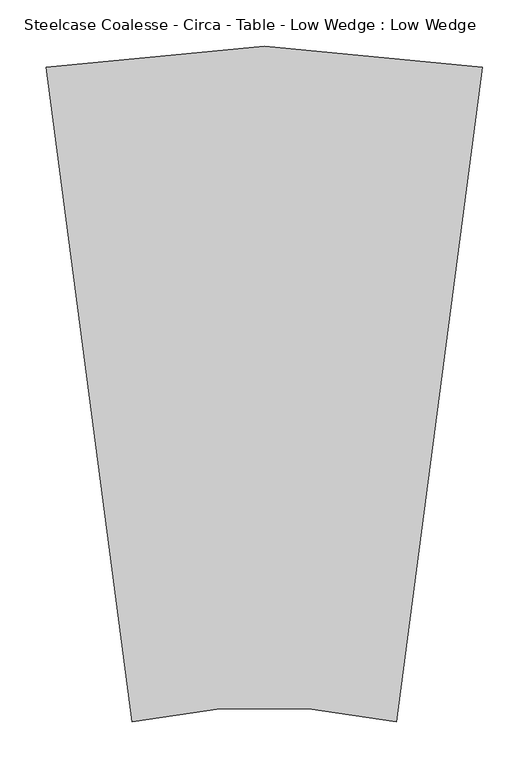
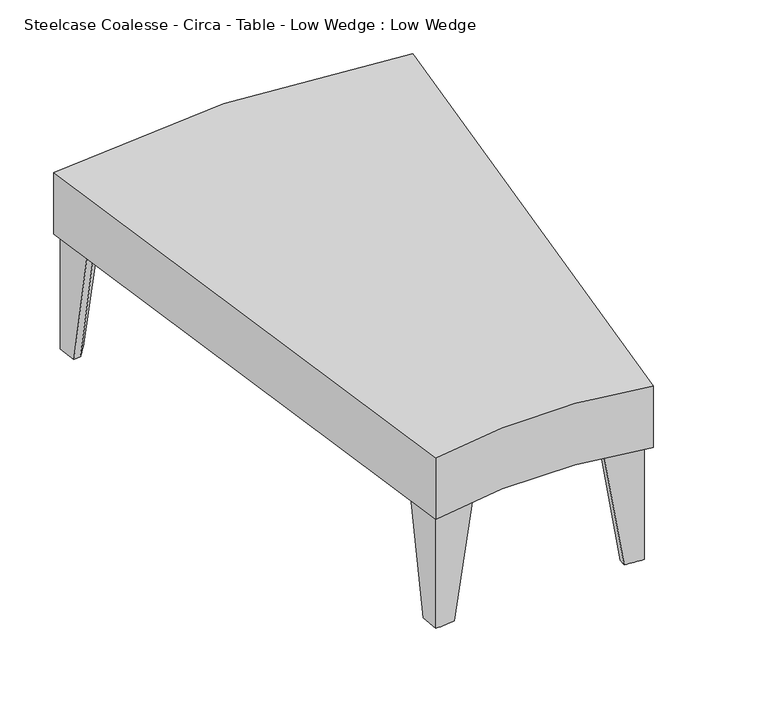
"""IFC4 building model written with IfcOpenShell, lengths in millimetres: furniture geometry, Steelcase Coalesse - Circa - Table - Low Wedge : Low Wedge."""

from ifc_helpers import new_model, si_unit, point, frame, frame_2d, origin, place, context, project, spatial, polyline, circle_curve, trimmed, segment, composite_curve, outline, extrude, source, transform, mapped, element, save
from ifc_brep_helpers import plane_surface, spline_surface, advanced_brep


def steelcase_coalesse_circa_table_low_wedge_low_wedge_ee67b399(model_context):
    return source(origin(), model_context, "Body", "SolidModel", [
        advanced_brep(
        [(-292.4797414, -479.1478993, 0.0), (-317.7815424, -476.9342785, 0.0), (-316.9513185, -467.444776, 0.0), (-299.7541546, -453.0143738, 0.0), (-290.2659856, -453.844554, 0.0), (-292.4790588, -479.1467675, 159.258), (-288.0517667, -428.5425865, 159.258), (-297.5405212, -427.7124281, 159.258), (-342.2536859, -465.2309598, 159.258), (-343.0838127, -474.7193523, 159.258)],
        [
            (0, 1),
            (1, 2),
            (2, 3),
            (3, 4),
            (4, 0),
            (5, 6),
            (6, 7),
            (7, 8),
            (8, 9),
            (9, 5),
            (9, 1),
            (0, 5),
            (8, 2),
            (7, 3),
            (6, 4),
        ],
        [
            plane_surface(frame((-303.4465485, -466.0771763, 0.0), z_axis=(0.0, 0.0, -1.0000000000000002), x_axis=(-0.996194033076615, 0.08716334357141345, 0.0))),
            plane_surface(frame((-312.6817691, -455.0704188, 159.258), z_axis=(0.0, 0.0, 1.0000000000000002), x_axis=(-0.996194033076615, 0.08716334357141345, 0.0))),
            spline_surface(1, 1, [[(-292.4790588, -479.1467675, 159.258), (-292.4797414, -479.1478993, 0.0)], [(-343.0838127, -474.7193523, 159.258), (-317.7815424, -476.9342785, 0.0)]], [2, 2], [2, 2], [0.0, 1.0], [0.0, 1.0]),
            plane_surface(frame((-342.6687493, -469.975156, 159.258), z_axis=(-0.9837622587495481, 0.0860680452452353, -0.1574932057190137), x_axis=(0.08715574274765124, 0.9961946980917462, 0.0))),
            spline_surface(1, 1, [[(-342.2536859, -465.2309598, 159.258), (-316.9513185, -467.444776, 0.0)], [(-297.5405212, -427.7124281, 159.258), (-299.7541546, -453.0143738, 0.0)]], [2, 2], [2, 2], [0.0, 1.0], [0.0, 1.0]),
            spline_surface(1, 1, [[(-297.5405212, -427.7124281, 159.258), (-299.7541546, -453.0143738, 0.0)], [(-288.0517667, -428.5425865, 159.258), (-290.2659856, -453.844554, 0.0)]], [2, 2], [2, 2], [0.0, 1.0], [0.0, 1.0]),
            plane_surface(frame((-290.2654128, -453.844677, 159.258), z_axis=(0.9961946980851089, -0.08715574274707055, -3.6504280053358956e-06), x_axis=(-0.08715574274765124, -0.9961946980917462, 0.0))),
        ],
        [
            (0, [[1, 2, 3, 4, 5]]),
            (1, [[6, 7, 8, 9, 10]]),
            (2, [[-10, 11, -1, 12]]),
            (3, [[-9, 13, -2, -11]]),
            (4, [[-8, 14, -3, -13]]),
            (5, [[-7, 15, -4, -14]]),
            (6, [[-6, -12, -5, -15]]),
        ],
    ),
        advanced_brep(
        [(-216.1530882, 211.9285243, 0.0), (-219.0782647, 186.6987195, 0.0), (-228.5398837, 187.795712, 0.0), (-242.4800538, 205.3925221, 0.0), (-241.3831095, 214.8537259, 0.0), (-216.1530882, 211.9285243, 159.258), (-266.6125596, 217.7788064, 159.258), (-267.7095018, 208.3176206, 159.258), (-231.4650539, 162.5659614, 159.258), (-222.003435, 161.4689689, 159.258)],
        [
            (0, 1),
            (1, 2),
            (2, 3),
            (3, 4),
            (4, 0),
            (5, 6),
            (6, 7),
            (7, 8),
            (8, 9),
            (9, 5),
            (9, 1),
            (0, 5),
            (8, 2),
            (7, 3),
            (6, 4),
        ],
        [
            plane_surface(frame((-229.52688, 201.3338408, 0.0), z_axis=(0.0, 0.0, -1.0000000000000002), x_axis=(0.9933458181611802, -0.11516981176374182, 0.0))),
            plane_surface(frame((-240.7887277, 192.4119763, 159.258), z_axis=(0.0, 0.0, 1.0000000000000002), x_axis=(0.9933458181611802, -0.11516981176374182, 0.0))),
            plane_surface(frame((-219.0782616, 186.6987466, 159.258), z_axis=(0.9933458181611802, -0.11516981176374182, 0.0), x_axis=(-0.11516981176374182, -0.9933458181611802, 0.0))),
            plane_surface(frame((-226.7342444, 162.0174652, 159.258), z_axis=(-0.11373253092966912, -0.9809491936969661, -0.15749155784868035), x_axis=(-0.9933458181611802, 0.11516981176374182, 0.0))),
            spline_surface(1, 1, [[(-231.4650539, 162.5659614, 159.258), (-228.5398837, 187.795712, 0.0)], [(-267.7095018, 208.3176206, 159.258), (-242.4800538, 205.3925221, 0.0)]], [2, 2], [2, 2], [0.0, 1.0], [0.0, 1.0]),
            plane_surface(frame((-267.1610307, 213.0482135, 159.258), z_axis=(-0.9809494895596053, 0.11373256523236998, -0.15748969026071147), x_axis=(0.11516981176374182, 0.9933458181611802, 0.0))),
            spline_surface(1, 1, [[(-266.6125596, 217.7788064, 159.258), (-241.3831095, 214.8537259, 0.0)], [(-216.1530882, 211.9285243, 159.258), (-216.1530882, 211.9285243, 0.0)]], [2, 2], [2, 2], [0.0, 1.0], [0.0, 1.0]),
        ],
        [
            (0, [[1, 2, 3, 4, 5]]),
            (1, [[6, 7, 8, 9, 10]]),
            (2, [[-10, 11, -1, 12]]),
            (3, [[-9, 13, -2, -11]]),
            (4, [[-8, 14, -3, -13]]),
            (5, [[-7, 15, -4, -14]]),
            (6, [[-6, -12, -5, -15]]),
        ],
    ),
        advanced_brep(
        [(-657.8775493, 211.9285243, 0.0), (-632.647528, 214.8537259, 0.0), (-631.5505836, 205.3925221, 0.0), (-645.4907538, 187.795712, 0.0), (-654.9523727, 186.6987195, 0.0), (-657.8775493, 211.9285243, 159.258), (-652.0272025, 161.4689689, 159.258), (-642.5655836, 162.5659614, 159.258), (-606.3211356, 208.3176206, 159.258), (-607.4180779, 217.7788064, 159.258)],
        [
            (0, 1),
            (1, 2),
            (2, 3),
            (3, 4),
            (4, 0),
            (5, 6),
            (6, 7),
            (7, 8),
            (8, 9),
            (9, 5),
            (9, 1),
            (0, 5),
            (8, 2),
            (7, 3),
            (6, 4),
        ],
        [
            plane_surface(frame((-644.5037575, 201.3338408, 0.0), z_axis=(0.0, 0.0, -1.0000000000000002), x_axis=(0.6209592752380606, 0.7838428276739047, 0.0))),
            plane_surface(frame((-633.2419098, 192.4119763, 159.258), z_axis=(0.0, 0.0, 1.0000000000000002), x_axis=(0.6209592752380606, 0.7838428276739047, 0.0))),
            spline_surface(1, 1, [[(-657.8775493, 211.9285243, 159.258), (-657.8775493, 211.9285243, 0.0)], [(-607.4180779, 217.7788064, 159.258), (-632.647528, 214.8537259, 0.0)]], [2, 2], [2, 2], [0.0, 1.0], [0.0, 1.0]),
            plane_surface(frame((-606.8696068, 213.0482135, 159.258), z_axis=(0.9809494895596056, 0.11373256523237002, -0.15748969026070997), x_axis=(0.11516981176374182, -0.9933458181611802, 0.0))),
            spline_surface(1, 1, [[(-606.3211356, 208.3176206, 159.258), (-631.5505836, 205.3925221, 0.0)], [(-642.5655836, 162.5659614, 159.258), (-645.4907538, 187.795712, 0.0)]], [2, 2], [2, 2], [0.0, 1.0], [0.0, 1.0]),
            plane_surface(frame((-647.296393, 162.0174652, 159.258), z_axis=(0.11373253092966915, -0.9809491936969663, -0.15749155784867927), x_axis=(-0.9933458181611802, -0.11516981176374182, 0.0))),
            plane_surface(frame((-654.9523759, 186.6987466, 159.258), z_axis=(-0.9933458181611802, -0.11516981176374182, 0.0), x_axis=(-0.11516981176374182, 0.9933458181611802, 0.0))),
        ],
        [
            (0, [[1, 2, 3, 4, 5]]),
            (1, [[6, 7, 8, 9, 10]]),
            (2, [[-10, 11, -1, 12]]),
            (3, [[-9, 13, -2, -11]]),
            (4, [[-8, 14, -3, -13]]),
            (5, [[-7, 15, -4, -14]]),
            (6, [[-6, -12, -5, -15]]),
        ],
    ),
        advanced_brep(
        [(-565.2751058, -479.1478993, 0.0), (-567.4888617, -453.844554, 0.0), (-558.0006927, -453.0143738, 0.0), (-540.8035288, -467.444776, 0.0), (-539.9733049, -476.9342785, 0.0), (-565.2757884, -479.1467675, 159.258), (-514.6710346, -474.7193523, 159.258), (-515.5011614, -465.2309598, 159.258), (-560.2143261, -427.7124281, 159.258), (-569.7030806, -428.5425865, 159.258)],
        [
            (0, 1),
            (1, 2),
            (2, 3),
            (3, 4),
            (4, 0),
            (5, 6),
            (6, 7),
            (7, 8),
            (8, 9),
            (9, 5),
            (9, 1),
            (0, 5),
            (8, 2),
            (7, 3),
            (6, 4),
        ],
        [
            plane_surface(frame((-554.3082988, -466.0771763, 0.0), z_axis=(0.0, 0.0, -1.0000000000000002), x_axis=(0.08715574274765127, -0.9961946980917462, 0.0))),
            plane_surface(frame((-545.0730782, -455.0704188, 159.258), z_axis=(0.0, 0.0, 1.0000000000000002), x_axis=(0.08715574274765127, -0.9961946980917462, 0.0))),
            plane_surface(frame((-567.4894345, -453.844677, 159.258), z_axis=(-0.9961946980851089, -0.08715574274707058, -3.650428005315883e-06), x_axis=(-0.08715574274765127, 0.9961946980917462, 0.0))),
            spline_surface(1, 1, [[(-569.7030806, -428.5425865, 159.258), (-567.4888617, -453.844554, 0.0)], [(-560.2143261, -427.7124281, 159.258), (-558.0006927, -453.0143738, 0.0)]], [2, 2], [2, 2], [0.0, 1.0], [0.0, 1.0]),
            spline_surface(1, 1, [[(-560.2143261, -427.7124281, 159.258), (-558.0006927, -453.0143738, 0.0)], [(-515.5011614, -465.2309598, 159.258), (-540.8035288, -467.444776, 0.0)]], [2, 2], [2, 2], [0.0, 1.0], [0.0, 1.0]),
            plane_surface(frame((-515.086098, -469.975156, 159.258), z_axis=(0.9837622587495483, 0.08606804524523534, -0.157493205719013), x_axis=(0.08715574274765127, -0.9961946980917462, 0.0))),
            spline_surface(1, 1, [[(-514.6710346, -474.7193523, 159.258), (-539.9733049, -476.9342785, 0.0)], [(-565.2757884, -479.1467675, 159.258), (-565.2751058, -479.1478993, 0.0)]], [2, 2], [2, 2], [0.0, 1.0], [0.0, 1.0]),
        ],
        [
            (0, [[1, 2, 3, 4, 5]]),
            (1, [[6, 7, 8, 9, 10]]),
            (2, [[-10, 11, -1, 12]]),
            (3, [[-9, 13, -2, -11]]),
            (4, [[-8, 14, -3, -13]]),
            (5, [[-7, 15, -4, -14]]),
            (6, [[-6, -12, -5, -15]]),
        ],
    ),
        extrude(outline(composite_curve([segment(trimmed(circle_curve(frame_2d((-428.9229635, -1121.0199718)), 647.9946116), [point((-286.6264165, -488.8422203))], [point((-571.2195104, -488.8422203))], True, "CARTESIAN"), True, "CONTINUOUS"), segment(polyline([(-571.2195104, -488.8422203), (-663.917922, 216.2403236)]), True, "CONTINUOUS"), segment(trimmed(circle_curve(frame_2d((-428.9226728, -1011.0737262)), 1249.6089564), [point((-663.917922, 216.2403236))], [point((-193.9274236, 216.2403236))], False, "CARTESIAN"), True, "CONTINUOUS"), segment(polyline([(-193.9274236, 216.2403236), (-286.6264165, -488.8422203)]), True, "CONTINUOUS")], self_intersect=False)), frame((0.0, 0.0, 159.258), z_axis=(0.0, 0.0, 1.0), x_axis=(1.0, 0.0, 0.0)), (0.0, 0.0, 1.0), 84.836),
    ])


if __name__ == "__main__":
    model = new_model("IFC4")
    model_context = context("Model", 3, world=origin())
    ifc_project = project(units=[si_unit("LENGTHUNIT", "METRE", prefix="MILLI")], contexts=[model_context])
    site = spatial("IfcSite", under=ifc_project)
    building = spatial("IfcBuilding", under=site)
    placement = place(None, origin())
    steelcase_coalesse_circa_table_low_wedge_low_wedge_shape = steelcase_coalesse_circa_table_low_wedge_low_wedge_ee67b399(model_context)
    element("IfcFurniture", 1, ObjectType="Steelcase Coalesse - Circa - Table - Low Wedge : Low Wedge", at=placement, inside=building, context=model_context, shape_type="MappedRepresentation", body=[
        mapped(steelcase_coalesse_circa_table_low_wedge_low_wedge_shape, transform((0.0, 0.0, 0.0), x_axis=(1.0, 0.0, 0.0), y_axis=(0.0, 1.0, 0.0), z_axis=(0.0, 0.0, 1.0))),
    ])
    save(model, "model.ifc")
